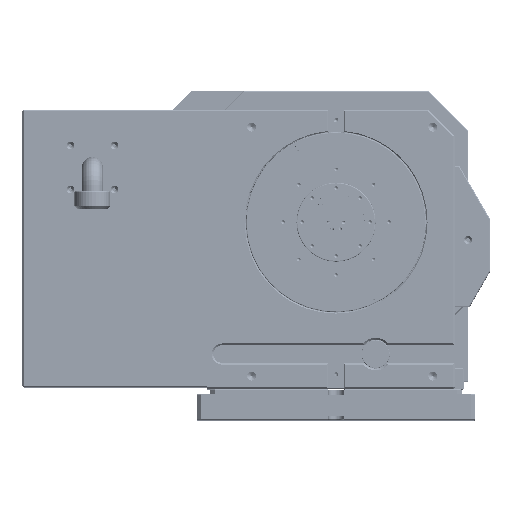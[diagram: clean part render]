
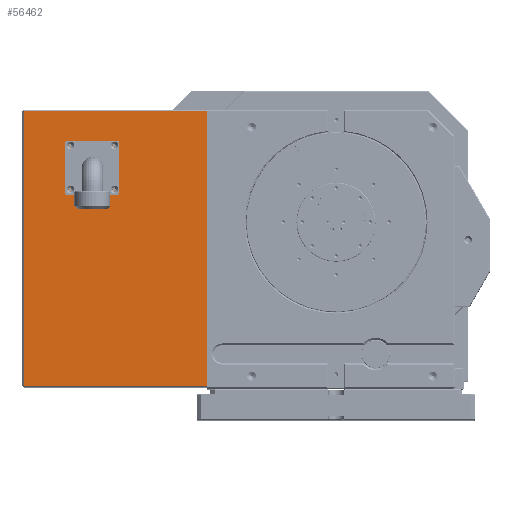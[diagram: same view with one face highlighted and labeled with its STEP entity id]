
A CAD part, top view. The second image highlights one B-rep face of the part: STEP entity #56462.
In plain terms, the highlighted planar face has unit normal (0, 0, 1).
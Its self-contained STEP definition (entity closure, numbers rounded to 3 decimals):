
#96 = CARTESIAN_POINT ( 'NONE',  ( -252., 118., 173. ) ) ;
#332 = CARTESIAN_POINT ( 'NONE',  ( -299.975, 68., 173. ) ) ;
#1034 = CARTESIAN_POINT ( 'NONE',  ( -254.025, 68., 173. ) ) ;
#1417 = DIRECTION ( 'NONE',  ( 0., 0., -1. ) ) ;
#1811 = DIRECTION ( 'NONE',  ( 0., 0., 1. ) ) ;
#1963 = EDGE_CURVE ( 'NONE', #82623, #10175, #38756, .T. ) ;
#2370 = VERTEX_POINT ( 'NONE', #29452 ) ;
#2474 = DIRECTION ( 'NONE',  ( 0., -1., 0. ) ) ;
#2727 = ORIENTED_EDGE ( 'NONE', *, *, #41701, .F. ) ;
#4107 = CIRCLE ( 'NONE', #95395, 2.025 ) ;
#4946 = ORIENTED_EDGE ( 'NONE', *, *, #16106, .T. ) ;
#5034 = CARTESIAN_POINT ( 'NONE',  ( -304.025, 68., 173. ) ) ;
#5706 = CARTESIAN_POINT ( 'NONE',  ( -357., -155., 173. ) ) ;
#8906 = EDGE_LOOP ( 'NONE', ( #13959, #9404 ) ) ;
#9285 = VERTEX_POINT ( 'NONE', #63934 ) ;
#9404 = ORIENTED_EDGE ( 'NONE', *, *, #1963, .F. ) ;
#10175 = VERTEX_POINT ( 'NONE', #14606 ) ;
#10632 = VERTEX_POINT ( 'NONE', #48511 ) ;
#11357 = DIRECTION ( 'NONE',  ( 1., 0., 0. ) ) ;
#12686 = VERTEX_POINT ( 'NONE', #59253 ) ;
#13069 = CIRCLE ( 'NONE', #46402, 25. ) ;
#13154 = DIRECTION ( 'NONE',  ( 0., 0., 1. ) ) ;
#13959 = ORIENTED_EDGE ( 'NONE', *, *, #97242, .F. ) ;
#14606 = CARTESIAN_POINT ( 'NONE',  ( -249.975, 68., 173. ) ) ;
#16106 = EDGE_CURVE ( 'NONE', #12686, #86079, #74833, .T. ) ;
#17326 = CARTESIAN_POINT ( 'NONE',  ( -357., 159., 173. ) ) ;
#17442 = AXIS2_PLACEMENT_3D ( 'NONE', #106015, #96184, #21391 ) ;
#17917 = CIRCLE ( 'NONE', #40671, 2.025 ) ;
#18467 = CARTESIAN_POINT ( 'NONE',  ( -277., 93., 173. ) ) ;
#19749 = ORIENTED_EDGE ( 'NONE', *, *, #69892, .F. ) ;
#20014 = VERTEX_POINT ( 'NONE', #5034 ) ;
#20983 = DIRECTION ( 'NONE',  ( -1., 0., 0. ) ) ;
#21391 = DIRECTION ( 'NONE',  ( 1., 0., 0. ) ) ;
#22510 = CARTESIAN_POINT ( 'NONE',  ( -277., 93., 173. ) ) ;
#22830 = VERTEX_POINT ( 'NONE', #57966 ) ;
#24984 = CIRCLE ( 'NONE', #100502, 2.025 ) ;
#25557 = VERTEX_POINT ( 'NONE', #73718 ) ;
#27852 = CARTESIAN_POINT ( 'NONE',  ( -302., 118., 173. ) ) ;
#28207 = LINE ( 'NONE', #104601, #94684 ) ;
#29283 = DIRECTION ( 'NONE',  ( 0., -1., 0. ) ) ;
#29452 = CARTESIAN_POINT ( 'NONE',  ( -277., 118., 173. ) ) ;
#30794 = EDGE_LOOP ( 'NONE', ( #2727, #50136 ) ) ;
#30811 = VERTEX_POINT ( 'NONE', #88040 ) ;
#30943 = DIRECTION ( 'NONE',  ( 1., 0., 0. ) ) ;
#31766 = ORIENTED_EDGE ( 'NONE', *, *, #68437, .F. ) ;
#31923 = AXIS2_PLACEMENT_3D ( 'NONE', #27852, #44891, #11357 ) ;
#32717 = AXIS2_PLACEMENT_3D ( 'NONE', #17326, #1417, #2474 ) ;
#33275 = EDGE_CURVE ( 'NONE', #9285, #22830, #98679, .T. ) ;
#35960 = PLANE ( 'NONE',  #32717 ) ;
#37119 = EDGE_CURVE ( 'NONE', #45885, #12686, #80997, .T. ) ;
#37402 = EDGE_CURVE ( 'NONE', #86079, #30811, #95233, .T. ) ;
#38756 = CIRCLE ( 'NONE', #54607, 2.025 ) ;
#38889 = EDGE_CURVE ( 'NONE', #25557, #10632, #100397, .T. ) ;
#38918 = DIRECTION ( 'NONE',  ( 0., 0., 1. ) ) ;
#40583 = ORIENTED_EDGE ( 'NONE', *, *, #37402, .T. ) ;
#40671 = AXIS2_PLACEMENT_3D ( 'NONE', #42444, #100754, #41349 ) ;
#41349 = DIRECTION ( 'NONE',  ( 1., 0., 0. ) ) ;
#41701 = EDGE_CURVE ( 'NONE', #2370, #87644, #13069, .T. ) ;
#42244 = CIRCLE ( 'NONE', #17442, 2.025 ) ;
#42444 = CARTESIAN_POINT ( 'NONE',  ( -302., 68., 173. ) ) ;
#42448 = AXIS2_PLACEMENT_3D ( 'NONE', #96, #84679, #43424 ) ;
#42990 = DIRECTION ( 'NONE',  ( 1., 0., 0. ) ) ;
#43424 = DIRECTION ( 'NONE',  ( 1., 0., 0. ) ) ;
#44891 = DIRECTION ( 'NONE',  ( 0., 0., 1. ) ) ;
#45885 = VERTEX_POINT ( 'NONE', #85717 ) ;
#46402 = AXIS2_PLACEMENT_3D ( 'NONE', #22510, #13154, #56567 ) ;
#48141 = CIRCLE ( 'NONE', #85061, 2.025 ) ;
#48511 = CARTESIAN_POINT ( 'NONE',  ( -254.025, 118., 173. ) ) ;
#49342 = CARTESIAN_POINT ( 'NONE',  ( -252., 68., 173. ) ) ;
#50136 = ORIENTED_EDGE ( 'NONE', *, *, #64829, .F. ) ;
#50719 = AXIS2_PLACEMENT_3D ( 'NONE', #18467, #59172, #92723 ) ;
#52996 = VERTEX_POINT ( 'NONE', #332 ) ;
#54027 = EDGE_CURVE ( 'NONE', #52996, #20014, #42244, .T. ) ;
#54607 = AXIS2_PLACEMENT_3D ( 'NONE', #89505, #38918, #72444 ) ;
#56343 = CARTESIAN_POINT ( 'NONE',  ( -277., 68., 173. ) ) ;
#56462 = ADVANCED_FACE ( 'NONE', ( #64229, #97801, #98347, #56521, #90052, #76661 ), #35960, .F. ) ;
#56521 = FACE_BOUND ( 'NONE', #95319, .T. ) ;
#56567 = DIRECTION ( 'NONE',  ( 0., 1., 0. ) ) ;
#56717 = ORIENTED_EDGE ( 'NONE', *, *, #69584, .F. ) ;
#57966 = CARTESIAN_POINT ( 'NONE',  ( -304.025, 118., 173. ) ) ;
#58423 = CARTESIAN_POINT ( 'NONE',  ( -302., 118., 173. ) ) ;
#59172 = DIRECTION ( 'NONE',  ( 0., 0., 1. ) ) ;
#59253 = CARTESIAN_POINT ( 'NONE',  ( -147., -155., 173. ) ) ;
#63934 = CARTESIAN_POINT ( 'NONE',  ( -299.975, 118., 173. ) ) ;
#64229 = FACE_BOUND ( 'NONE', #99786, .T. ) ;
#64767 = DIRECTION ( 'NONE',  ( 0., 0., 1. ) ) ;
#64829 = EDGE_CURVE ( 'NONE', #87644, #2370, #106908, .T. ) ;
#64899 = VECTOR ( 'NONE', #30943, 1000. ) ;
#65461 = EDGE_LOOP ( 'NONE', ( #4946, #40583, #99709, #72548 ) ) ;
#68242 = CARTESIAN_POINT ( 'NONE',  ( -147., 159., 173. ) ) ;
#68437 = EDGE_CURVE ( 'NONE', #20014, #52996, #17917, .T. ) ;
#69584 = EDGE_CURVE ( 'NONE', #22830, #9285, #4107, .T. ) ;
#69892 = EDGE_CURVE ( 'NONE', #10632, #25557, #24984, .T. ) ;
#72444 = DIRECTION ( 'NONE',  ( 1., 0., 0. ) ) ;
#72548 = ORIENTED_EDGE ( 'NONE', *, *, #37119, .T. ) ;
#73718 = CARTESIAN_POINT ( 'NONE',  ( -249.975, 118., 173. ) ) ;
#74075 = DIRECTION ( 'NONE',  ( 1., 0., 0. ) ) ;
#74833 = LINE ( 'NONE', #68242, #78688 ) ;
#76661 = FACE_OUTER_BOUND ( 'NONE', #65461, .T. ) ;
#77590 = ORIENTED_EDGE ( 'NONE', *, *, #33275, .F. ) ;
#78688 = VECTOR ( 'NONE', #101790, 1000. ) ;
#80997 = LINE ( 'NONE', #5706, #64899 ) ;
#81399 = CARTESIAN_POINT ( 'NONE',  ( -252., 118., 173. ) ) ;
#82623 = VERTEX_POINT ( 'NONE', #1034 ) ;
#84679 = DIRECTION ( 'NONE',  ( 0., 0., 1. ) ) ;
#85061 = AXIS2_PLACEMENT_3D ( 'NONE', #49342, #64767, #74075 ) ;
#85717 = CARTESIAN_POINT ( 'NONE',  ( -355., -155., 173. ) ) ;
#86079 = VERTEX_POINT ( 'NONE', #99637 ) ;
#87644 = VERTEX_POINT ( 'NONE', #56343 ) ;
#88040 = CARTESIAN_POINT ( 'NONE',  ( -355., 157., 173. ) ) ;
#88567 = DIRECTION ( 'NONE',  ( 0., 0., 1. ) ) ;
#89505 = CARTESIAN_POINT ( 'NONE',  ( -252., 68., 173. ) ) ;
#90052 = FACE_BOUND ( 'NONE', #30794, .T. ) ;
#90896 = EDGE_LOOP ( 'NONE', ( #91232, #19749 ) ) ;
#91232 = ORIENTED_EDGE ( 'NONE', *, *, #38889, .F. ) ;
#92723 = DIRECTION ( 'NONE',  ( 0., 1., 0. ) ) ;
#94684 = VECTOR ( 'NONE', #29283, 1000. ) ;
#95233 = LINE ( 'NONE', #96312, #100091 ) ;
#95319 = EDGE_LOOP ( 'NONE', ( #95510, #31766 ) ) ;
#95395 = AXIS2_PLACEMENT_3D ( 'NONE', #58423, #1811, #42990 ) ;
#95510 = ORIENTED_EDGE ( 'NONE', *, *, #54027, .F. ) ;
#96184 = DIRECTION ( 'NONE',  ( 0., 0., 1. ) ) ;
#96312 = CARTESIAN_POINT ( 'NONE',  ( -357., 157., 173. ) ) ;
#97242 = EDGE_CURVE ( 'NONE', #10175, #82623, #48141, .T. ) ;
#97801 = FACE_BOUND ( 'NONE', #90896, .T. ) ;
#98347 = FACE_BOUND ( 'NONE', #8906, .T. ) ;
#98679 = CIRCLE ( 'NONE', #31923, 2.025 ) ;
#99637 = CARTESIAN_POINT ( 'NONE',  ( -147., 157., 173. ) ) ;
#99709 = ORIENTED_EDGE ( 'NONE', *, *, #107701, .T. ) ;
#99786 = EDGE_LOOP ( 'NONE', ( #77590, #56717 ) ) ;
#100091 = VECTOR ( 'NONE', #20983, 1000. ) ;
#100397 = CIRCLE ( 'NONE', #42448, 2.025 ) ;
#100502 = AXIS2_PLACEMENT_3D ( 'NONE', #81399, #88567, #106140 ) ;
#100754 = DIRECTION ( 'NONE',  ( 0., 0., 1. ) ) ;
#101790 = DIRECTION ( 'NONE',  ( 0., 1., 0. ) ) ;
#104601 = CARTESIAN_POINT ( 'NONE',  ( -355., -157., 173. ) ) ;
#106015 = CARTESIAN_POINT ( 'NONE',  ( -302., 68., 173. ) ) ;
#106140 = DIRECTION ( 'NONE',  ( 1., 0., 0. ) ) ;
#106908 = CIRCLE ( 'NONE', #50719, 25. ) ;
#107701 = EDGE_CURVE ( 'NONE', #30811, #45885, #28207, .T. ) ;
